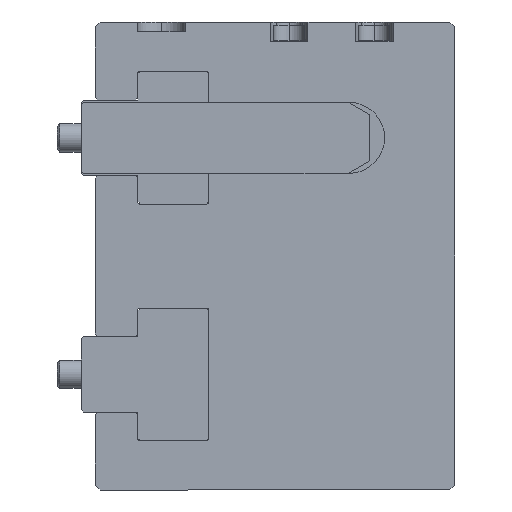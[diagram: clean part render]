
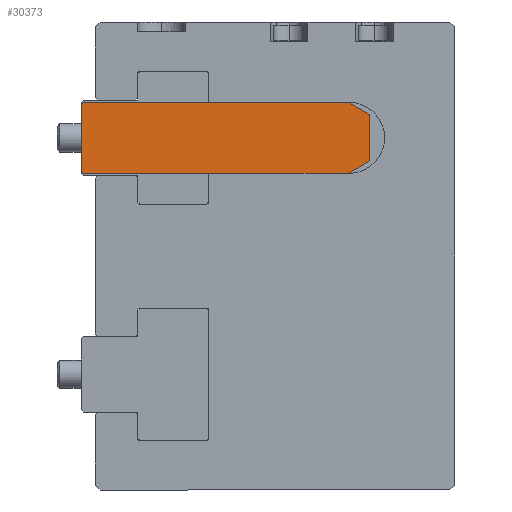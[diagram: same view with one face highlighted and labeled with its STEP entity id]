
A CAD part, left-side view. The second image highlights one B-rep face of the part: STEP entity #30373.
In plain terms, the highlighted planar face has unit normal (-1, 0, 0).
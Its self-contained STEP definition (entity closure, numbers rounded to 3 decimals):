
#380 = LINE ( 'NONE', #29713, #40747 ) ;
#1413 = EDGE_LOOP ( 'NONE', ( #14743, #18196, #1732, #42955, #34959, #30068, #24133, #44016 ) ) ;
#1732 = ORIENTED_EDGE ( 'NONE', *, *, #20040, .T. ) ;
#1754 = EDGE_CURVE ( 'NONE', #4245, #41147, #4597, .T. ) ;
#2354 = CARTESIAN_POINT ( 'NONE',  ( -202., 26.999, 7. ) ) ;
#2373 = LINE ( 'NONE', #2354, #39248 ) ;
#2806 = CARTESIAN_POINT ( 'NONE',  ( -202., 26.999, -7. ) ) ;
#3935 = DIRECTION ( 'NONE',  ( 0., 0., 1. ) ) ;
#4245 = VERTEX_POINT ( 'NONE', #24074 ) ;
#4597 = LINE ( 'NONE', #35091, #41096 ) ;
#5945 = CARTESIAN_POINT ( 'NONE',  ( -202., 33.999, 0. ) ) ;
#6073 = AXIS2_PLACEMENT_3D ( 'NONE', #5945, #17087, #42841 ) ;
#6291 = FACE_OUTER_BOUND ( 'NONE', #1413, .T. ) ;
#6795 = VECTOR ( 'NONE', #46371, 1000. ) ;
#9323 = CARTESIAN_POINT ( 'NONE',  ( -202., 26.999, -7. ) ) ;
#9575 = LINE ( 'NONE', #42470, #27999 ) ;
#10218 = DIRECTION ( 'NONE',  ( 0., 0., -1. ) ) ;
#11992 = VERTEX_POINT ( 'NONE', #26546 ) ;
#12661 = VERTEX_POINT ( 'NONE', #44711 ) ;
#13355 = PLANE ( 'NONE',  #6073 ) ;
#14743 = ORIENTED_EDGE ( 'NONE', *, *, #46007, .T. ) ;
#15063 = CARTESIAN_POINT ( 'NONE',  ( -202., -29.5, -7.5 ) ) ;
#16616 = LINE ( 'NONE', #20589, #6795 ) ;
#16701 = CARTESIAN_POINT ( 'NONE',  ( -202., 26.499, 7.5 ) ) ;
#17087 = DIRECTION ( 'NONE',  ( -1., 0., 0. ) ) ;
#17568 = EDGE_CURVE ( 'NONE', #41147, #21919, #16616, .T. ) ;
#17581 = VECTOR ( 'NONE', #40277, 1000. ) ;
#18196 = ORIENTED_EDGE ( 'NONE', *, *, #36259, .T. ) ;
#19422 = EDGE_CURVE ( 'NONE', #21919, #12661, #380, .T. ) ;
#19935 = DIRECTION ( 'NONE',  ( 0., 0.866, 0.5 ) ) ;
#20040 = EDGE_CURVE ( 'NONE', #38182, #4245, #9575, .T. ) ;
#20411 = DIRECTION ( 'NONE',  ( 0., -1., 0. ) ) ;
#20589 = CARTESIAN_POINT ( 'NONE',  ( -202., -34., -4.902 ) ) ;
#21919 = VERTEX_POINT ( 'NONE', #39439 ) ;
#22207 = VERTEX_POINT ( 'NONE', #38269 ) ;
#24074 = CARTESIAN_POINT ( 'NONE',  ( -202., 26.499, -7.5 ) ) ;
#24133 = ORIENTED_EDGE ( 'NONE', *, *, #30318, .T. ) ;
#25910 = LINE ( 'NONE', #34624, #44324 ) ;
#26546 = CARTESIAN_POINT ( 'NONE',  ( -202., 26.999, 7. ) ) ;
#27378 = LINE ( 'NONE', #36417, #17581 ) ;
#27999 = VECTOR ( 'NONE', #46118, 1000. ) ;
#28123 = DIRECTION ( 'NONE',  ( 0., 0.707, -0.707 ) ) ;
#29713 = CARTESIAN_POINT ( 'NONE',  ( -202., -34., -4.902 ) ) ;
#30068 = ORIENTED_EDGE ( 'NONE', *, *, #19422, .T. ) ;
#30318 = EDGE_CURVE ( 'NONE', #12661, #22207, #25910, .T. ) ;
#30373 = ADVANCED_FACE ( 'NONE', ( #6291 ), #13355, .T. ) ;
#30553 = LINE ( 'NONE', #2806, #39183 ) ;
#30759 = VERTEX_POINT ( 'NONE', #16701 ) ;
#34624 = CARTESIAN_POINT ( 'NONE',  ( -202., -34., 4.902 ) ) ;
#34959 = ORIENTED_EDGE ( 'NONE', *, *, #17568, .T. ) ;
#35091 = CARTESIAN_POINT ( 'NONE',  ( -202., 26.499, -7.5 ) ) ;
#36259 = EDGE_CURVE ( 'NONE', #11992, #38182, #30553, .T. ) ;
#36417 = CARTESIAN_POINT ( 'NONE',  ( -202., 26.499, 7.5 ) ) ;
#38182 = VERTEX_POINT ( 'NONE', #9323 ) ;
#38269 = CARTESIAN_POINT ( 'NONE',  ( -202., -29.5, 7.5 ) ) ;
#39183 = VECTOR ( 'NONE', #10218, 1000. ) ;
#39248 = VECTOR ( 'NONE', #28123, 1000. ) ;
#39439 = CARTESIAN_POINT ( 'NONE',  ( -202., -34., -4.902 ) ) ;
#40277 = DIRECTION ( 'NONE',  ( 0., 1., 0. ) ) ;
#40747 = VECTOR ( 'NONE', #3935, 1000. ) ;
#41096 = VECTOR ( 'NONE', #20411, 1000. ) ;
#41147 = VERTEX_POINT ( 'NONE', #15063 ) ;
#42470 = CARTESIAN_POINT ( 'NONE',  ( -202., 26.999, -7. ) ) ;
#42841 = DIRECTION ( 'NONE',  ( 0., 0., 1. ) ) ;
#42955 = ORIENTED_EDGE ( 'NONE', *, *, #1754, .T. ) ;
#43623 = EDGE_CURVE ( 'NONE', #22207, #30759, #27378, .T. ) ;
#44016 = ORIENTED_EDGE ( 'NONE', *, *, #43623, .T. ) ;
#44324 = VECTOR ( 'NONE', #19935, 1000. ) ;
#44711 = CARTESIAN_POINT ( 'NONE',  ( -202., -34., 4.902 ) ) ;
#46007 = EDGE_CURVE ( 'NONE', #30759, #11992, #2373, .T. ) ;
#46118 = DIRECTION ( 'NONE',  ( 0., -0.707, -0.707 ) ) ;
#46371 = DIRECTION ( 'NONE',  ( 0., -0.866, 0.5 ) ) ;
